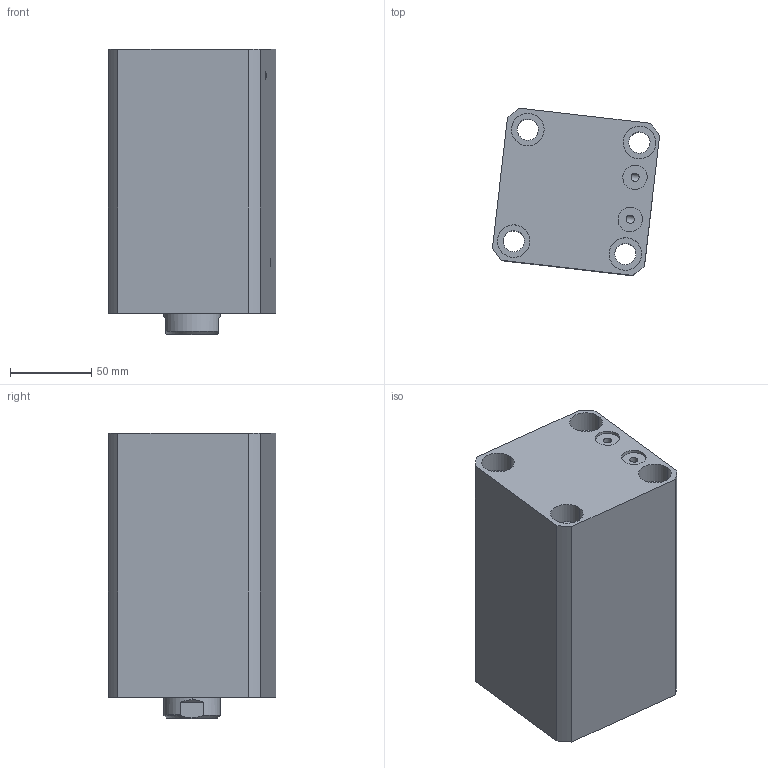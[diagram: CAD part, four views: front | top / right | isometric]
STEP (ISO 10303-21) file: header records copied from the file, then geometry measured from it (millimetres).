
FILE_DESCRIPTION (( 'STEP AP214' ), '1' );
FILE_NAME ('chtb-sdmb63x95n_asm.STEP', '2018-05-16T06:54:12', ( 'Windows' ), ( 'Microsoft' ), 'SwSTEP 2.0', 'SolidWorks 2015', '' );
FILE_SCHEMA (( 'AUTOMOTIVE_DESIGN' ));
Length unit declared in the file: millimetre
Products named in the file (4): CHTB-SDMB63X95NBT; CHTB63X95NHSG; CHTB-63QG; chtb-sdmb63x95n_asm
Assembly tree (3 placements, depth 2):
  chtb-sdmb63x95n_asm
    CHTB-63QG
    CHTB63X95NHSG
    CHTB-SDMB63X95NBT
Bounding box: 102.66 x 102.66 x 175 mm (x, y, z)
Volume: 1108001.8 mm3; surface area: 183251.7 mm2
Topology: 3 solids, 3 shells, 164 faces, 468 edges, 318 vertices
Faces by surface type: cylinder 107, plane 30, bspline 12, cone 8, torus 7
Entity records: 17708 total; most frequent: CARTESIAN_POINT 13594, ORIENTED_EDGE 924, DIRECTION 707, EDGE_CURVE 462, VERTEX_POINT 318, AXIS2_PLACEMENT_3D 284, EDGE_LOOP 196, ADVANCED_FACE 164
